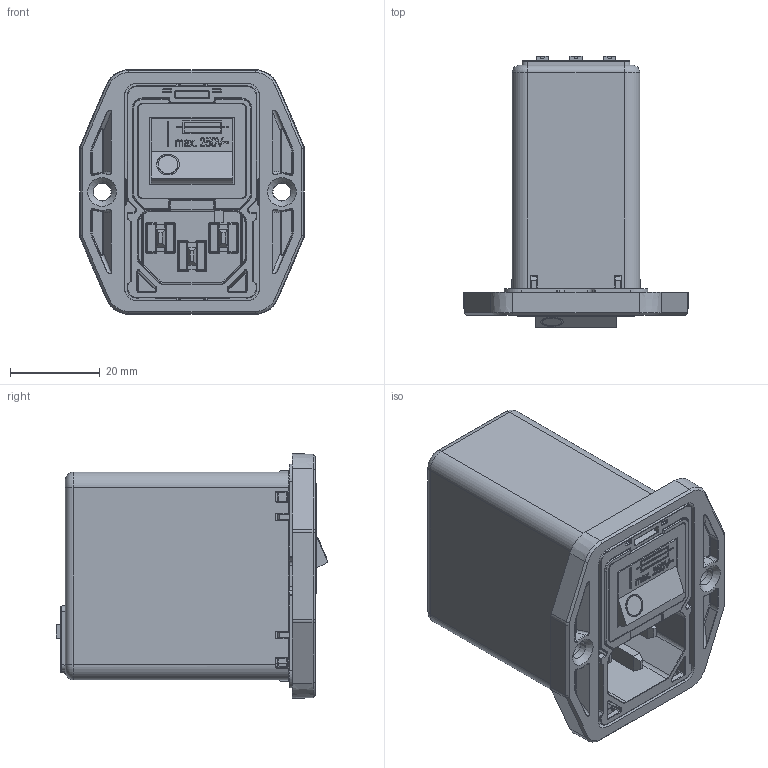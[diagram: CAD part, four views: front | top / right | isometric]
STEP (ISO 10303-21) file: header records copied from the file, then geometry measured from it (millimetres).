
FILE_DESCRIPTION((''),'2;1');
FILE_NAME('H:\02_Projects\A_Others\Z_Support\Luis\Cherry_STP\Step_Files\1 Stage\1_stage_spring_cage_horizontal_front.stp','2012-07-26T15:10:37',('Samuel.Meier'),(''),'Autodesk Inventor 2010','Autodesk Inventor 2010','');
FILE_SCHEMA(('AUTOMOTIVE_DESIGN { 1 2 10303 214 0 1 1 1 }'));
Length unit declared in the file: millimetre
Products named in the file (1): 1_stage_spring_cage_horizontal_front
Bounding box: 50.04 x 60.34 x 54.44 mm (x, y, z)
Surface area: 39601.5 mm2 (no closed solid volume)
Topology: 0 solids, 21 shells, 3331 faces, 8778 edges, 5435 vertices
Faces by surface type: plane 1390, cylinder 1185, bspline 516, sphere 91, torus 89, cone 60
Full cylindrical faces by diameter (mm): 0.8 x4, 1 x2, 1.1 x10, 1.2 x4, 2.7 x1, 3.6 x1, 4 x2, 4.5 x2, 6.5 x1, 7.2 x1, 8.2 x1
Entity records: 113186 total; most frequent: CARTESIAN_POINT 28808, ORIENTED_EDGE 17304, DIRECTION 16674, EDGE_CURVE 8652, AXIS2_PLACEMENT_3D 5810, VERTEX_POINT 5431, VECTOR 5054, LINE 5054
